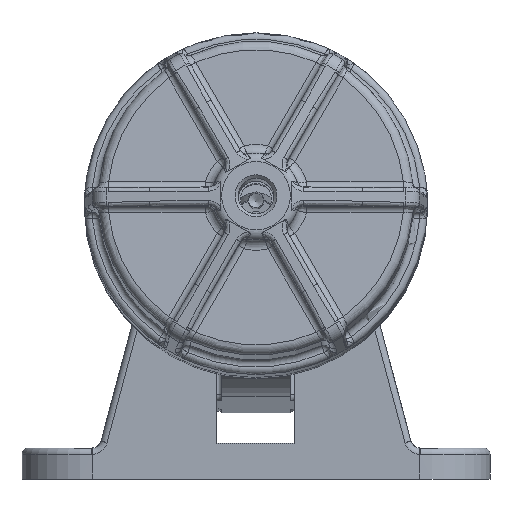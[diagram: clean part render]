
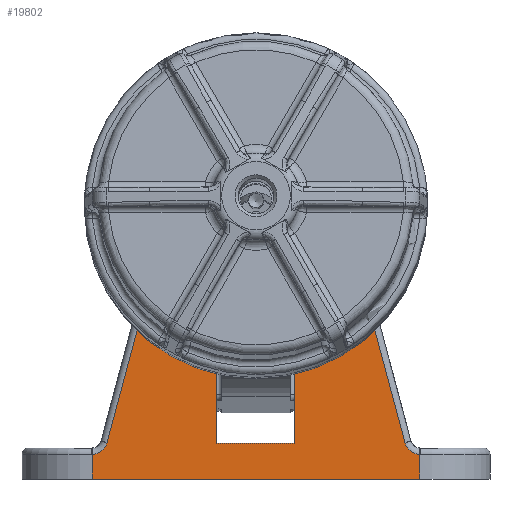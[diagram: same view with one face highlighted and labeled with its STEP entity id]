
A CAD part, front view. The second image highlights one B-rep face of the part: STEP entity #19802.
In plain terms, the highlighted planar face has unit normal (0, -1, 0).
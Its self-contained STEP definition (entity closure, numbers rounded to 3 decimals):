
#1388=CIRCLE('',#21243,5.);
#1393=CIRCLE('',#21252,5.);
#2532=FACE_OUTER_BOUND('',#3663,.T.);
#3663=EDGE_LOOP('',(#14506,#14507,#14508,#14509,#14510,#14511,#14512,#14513,
#14514,#14515,#14516,#14517,#14518,#14519,#14520,#14521,#14522,#14523));
#4535=LINE('',#38757,#5718);
#4550=LINE('',#38790,#5733);
#4551=LINE('',#38793,#5734);
#4568=LINE('',#38835,#5751);
#4578=LINE('',#38858,#5761);
#4616=LINE('',#38947,#5799);
#4663=LINE('',#39112,#5846);
#4673=LINE('',#39141,#5856);
#4690=LINE('',#39177,#5873);
#4719=LINE('',#39307,#5902);
#4721=LINE('',#39378,#5904);
#4723=LINE('',#39384,#5906);
#4728=LINE('',#39427,#5911);
#4730=LINE('',#39465,#5913);
#4731=LINE('',#39468,#5914);
#4734=LINE('',#39484,#5917);
#5718=VECTOR('',#24068,10.);
#5733=VECTOR('',#24103,10.);
#5734=VECTOR('',#24106,10.);
#5751=VECTOR('',#24145,10.);
#5761=VECTOR('',#24171,10.);
#5799=VECTOR('',#24233,10.);
#5846=VECTOR('',#24348,10.);
#5856=VECTOR('',#24372,10.);
#5873=VECTOR('',#24401,10.);
#5902=VECTOR('',#24496,10.);
#5904=VECTOR('',#24528,10.);
#5906=VECTOR('',#24534,10.);
#5911=VECTOR('',#24555,10.);
#5913=VECTOR('',#24577,10.);
#5914=VECTOR('',#24582,10.);
#5917=VECTOR('',#24603,10.);
#7818=VERTEX_POINT('',#38748);
#7821=VERTEX_POINT('',#38756);
#7829=VERTEX_POINT('',#38788);
#7830=VERTEX_POINT('',#38792);
#7843=VERTEX_POINT('',#38828);
#7844=VERTEX_POINT('',#38833);
#7849=VERTEX_POINT('',#38857);
#7888=VERTEX_POINT('',#38946);
#7951=VERTEX_POINT('',#39109);
#7952=VERTEX_POINT('',#39111);
#7964=VERTEX_POINT('',#39140);
#7977=VERTEX_POINT('',#39175);
#8010=VERTEX_POINT('',#39367);
#8011=VERTEX_POINT('',#39374);
#8013=VERTEX_POINT('',#39382);
#8017=VERTEX_POINT('',#39395);
#8018=VERTEX_POINT('',#39397);
#8021=VERTEX_POINT('',#39464);
#10087=EDGE_CURVE('',#7821,#7818,#4535,.T.);
#10105=EDGE_CURVE('',#7818,#7829,#4550,.T.);
#10106=EDGE_CURVE('',#7830,#7821,#4551,.T.);
#10128=EDGE_CURVE('',#7843,#7844,#4568,.T.);
#10139=EDGE_CURVE('',#7849,#7843,#4578,.T.);
#10184=EDGE_CURVE('',#7888,#7830,#4616,.T.);
#10258=EDGE_CURVE('',#7952,#7951,#4663,.T.);
#10273=EDGE_CURVE('',#7964,#7849,#4673,.T.);
#10293=EDGE_CURVE('',#7829,#7977,#4690,.T.);
#10342=EDGE_CURVE('',#7844,#7952,#4719,.T.);
#10355=EDGE_CURVE('',#8010,#8011,#1388,.T.);
#10356=EDGE_CURVE('',#8011,#7977,#4721,.T.);
#10359=EDGE_CURVE('',#8013,#8010,#4723,.T.);
#10367=EDGE_CURVE('',#8018,#8017,#1393,.T.);
#10370=EDGE_CURVE('',#7964,#8018,#4728,.T.);
#10378=EDGE_CURVE('',#8021,#8017,#4730,.T.);
#10380=EDGE_CURVE('',#7951,#7888,#4731,.T.);
#10387=EDGE_CURVE('',#8021,#8013,#4734,.T.);
#14506=ORIENTED_EDGE('',*,*,#10355,.F.);
#14507=ORIENTED_EDGE('',*,*,#10359,.F.);
#14508=ORIENTED_EDGE('',*,*,#10387,.F.);
#14509=ORIENTED_EDGE('',*,*,#10378,.T.);
#14510=ORIENTED_EDGE('',*,*,#10367,.F.);
#14511=ORIENTED_EDGE('',*,*,#10370,.F.);
#14512=ORIENTED_EDGE('',*,*,#10273,.T.);
#14513=ORIENTED_EDGE('',*,*,#10139,.T.);
#14514=ORIENTED_EDGE('',*,*,#10128,.T.);
#14515=ORIENTED_EDGE('',*,*,#10342,.T.);
#14516=ORIENTED_EDGE('',*,*,#10258,.T.);
#14517=ORIENTED_EDGE('',*,*,#10380,.T.);
#14518=ORIENTED_EDGE('',*,*,#10184,.T.);
#14519=ORIENTED_EDGE('',*,*,#10106,.T.);
#14520=ORIENTED_EDGE('',*,*,#10087,.T.);
#14521=ORIENTED_EDGE('',*,*,#10105,.T.);
#14522=ORIENTED_EDGE('',*,*,#10293,.T.);
#14523=ORIENTED_EDGE('',*,*,#10356,.F.);
#18000=PLANE('',#21275);
#19802=ADVANCED_FACE('',(#2532),#18000,.T.);
#21243=AXIS2_PLACEMENT_3D('',#39376,#24524,#24525);
#21252=AXIS2_PLACEMENT_3D('',#39399,#24549,#24550);
#21275=AXIS2_PLACEMENT_3D('',#39483,#24601,#24602);
#24068=DIRECTION('',(-1.,0.,0.));
#24103=DIRECTION('',(-1.,0.,0.));
#24106=DIRECTION('',(-1.,0.,0.));
#24145=DIRECTION('',(-1.,0.,0.));
#24171=DIRECTION('',(-1.,0.,0.));
#24233=DIRECTION('',(0.,0.,1.));
#24348=DIRECTION('',(0.,0.,-1.));
#24372=DIRECTION('',(0.,0.,1.));
#24401=DIRECTION('',(0.,0.,-1.));
#24496=DIRECTION('',(-1.,0.,0.));
#24524=DIRECTION('center_axis',(0.,-1.,0.));
#24525=DIRECTION('ref_axis',(0.619,0.,-0.785));
#24528=DIRECTION('',(0.259,0.,0.966));
#24534=DIRECTION('',(0.,0.,1.));
#24549=DIRECTION('center_axis',(0.,-1.,0.));
#24550=DIRECTION('ref_axis',(-0.619,0.,-0.785));
#24555=DIRECTION('',(0.259,0.,-0.966));
#24577=DIRECTION('',(0.,0.,1.));
#24582=DIRECTION('',(-1.,0.,0.));
#24601=DIRECTION('center_axis',(0.,-1.,0.));
#24602=DIRECTION('ref_axis',(0.,0.,
-1.));
#24603=DIRECTION('',(-1.,0.,0.));
#38748=CARTESIAN_POINT('',(-27.,-22.239,116.27));
#38756=CARTESIAN_POINT('',(-14.,-22.239,116.27));
#38757=CARTESIAN_POINT('',(52.5,-22.239,116.27));
#38788=CARTESIAN_POINT('',(-27.5,-22.239,116.27));
#38790=CARTESIAN_POINT('',(52.5,-22.239,116.27));
#38792=CARTESIAN_POINT('',(-12.5,-22.239,116.27));
#38793=CARTESIAN_POINT('',(52.5,-22.239,116.27));
#38828=CARTESIAN_POINT('',(27.,-22.239,116.27));
#38833=CARTESIAN_POINT('',(14.,-22.239,116.27));
#38835=CARTESIAN_POINT('',(52.5,-22.239,116.27));
#38857=CARTESIAN_POINT('',(27.5,-22.239,116.27));
#38858=CARTESIAN_POINT('',(52.5,-22.239,116.27));
#38946=CARTESIAN_POINT('',(-12.5,-22.239,17.77));
#38947=CARTESIAN_POINT('',(-12.5,-22.239,61.27));
#39109=CARTESIAN_POINT('',(12.5,-22.239,17.77));
#39111=CARTESIAN_POINT('',(12.5,-22.239,116.27));
#39112=CARTESIAN_POINT('',(12.5,-22.239,12.02));
#39140=CARTESIAN_POINT('',(27.5,-22.239,93.543));
#39141=CARTESIAN_POINT('',(27.5,-22.239,61.27));
#39175=CARTESIAN_POINT('',(-27.5,-22.239,93.543));
#39177=CARTESIAN_POINT('',(-27.5,-22.239,53.77));
#39307=CARTESIAN_POINT('',(52.5,-22.239,116.27));
#39367=CARTESIAN_POINT('',(-52.5,-22.239,14.271));
#39374=CARTESIAN_POINT('',(-47.748,-22.239,17.976));
#39376=CARTESIAN_POINT('Origin',(-52.578,-22.239,19.27));
#39378=CARTESIAN_POINT('',(-45.854,-22.239,25.046));
#39382=CARTESIAN_POINT('',(-52.5,-22.239,6.27));
#39384=CARTESIAN_POINT('',(-52.5,-22.239,6.27));
#39395=CARTESIAN_POINT('',(52.5,-22.239,14.271));
#39397=CARTESIAN_POINT('',(47.748,-22.239,17.976));
#39399=CARTESIAN_POINT('Origin',(52.578,-22.239,19.27));
#39427=CARTESIAN_POINT('',(38.28,-22.239,53.309));
#39464=CARTESIAN_POINT('',(52.5,-22.239,6.27));
#39465=CARTESIAN_POINT('',(52.5,-22.239,6.27));
#39468=CARTESIAN_POINT('',(27.955,-22.239,17.77));
#39483=CARTESIAN_POINT('Origin',(52.5,-22.239,6.27));
#39484=CARTESIAN_POINT('',(52.5,-22.239,6.27));
